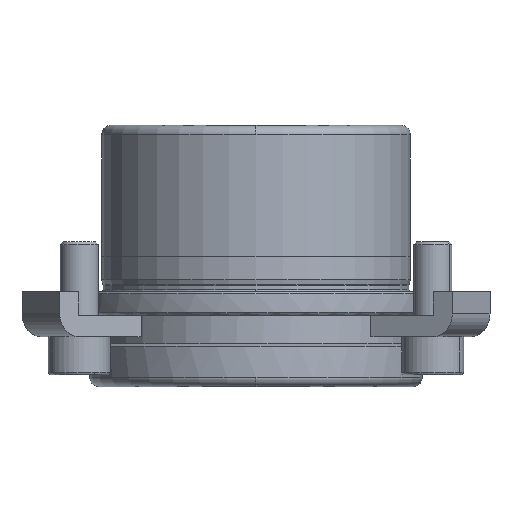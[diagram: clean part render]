
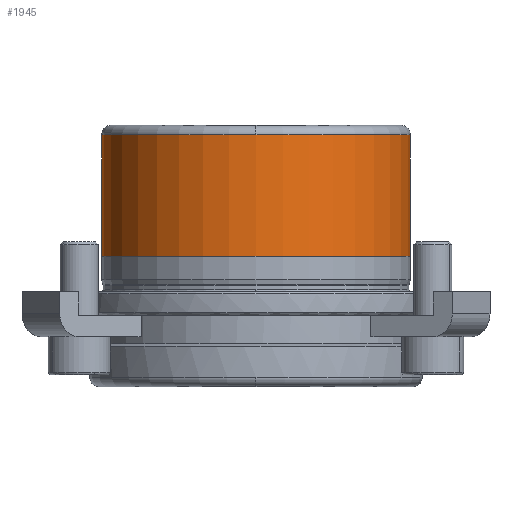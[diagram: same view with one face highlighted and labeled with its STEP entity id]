
A CAD part, front view. The second image highlights one B-rep face of the part: STEP entity #1945.
In plain terms, the highlighted cylindrical face has radius 32.495 mm (diameter 64.99 mm), a partial arc.
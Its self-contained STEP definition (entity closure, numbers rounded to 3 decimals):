
#1102=CARTESIAN_POINT('',(32.495,0.,7.4));
#1103=VERTEX_POINT('',#1102);
#1104=CARTESIAN_POINT('',(32.495,0.,33.0));
#1105=VERTEX_POINT('',#1104);
#1106=CARTESIAN_POINT('',(32.495,0.,7.4));
#1107=DIRECTION('',(0.0,0.0,1.0));
#1108=VECTOR('',#1107,25.6);
#1109=LINE('',#1106,#1108);
#1110=EDGE_CURVE('',#1103,#1105,#1109,.T.);
#1112=CARTESIAN_POINT('',(-32.495,0.,7.4));
#1113=VERTEX_POINT('',#1112);
#1121=CARTESIAN_POINT('',(-32.495,0.,33.0));
#1122=VERTEX_POINT('',#1121);
#1123=CARTESIAN_POINT('',(-32.495,0.,7.4));
#1124=DIRECTION('',(0.0,0.0,1.0));
#1125=VECTOR('',#1124,25.6);
#1126=LINE('',#1123,#1125);
#1127=EDGE_CURVE('',#1113,#1122,#1126,.T.);
#1163=CARTESIAN_POINT('',(0.,-32.495,33.));
#1164=VERTEX_POINT('',#1163);
#1165=CARTESIAN_POINT('',(0.0,0.,33.0));
#1166=DIRECTION('',(0.0,0.0,-1.0));
#1167=DIRECTION('',(1.0,0.0,0.0));
#1168=AXIS2_PLACEMENT_3D('',#1165,#1166,#1167);
#1169=CIRCLE('',#1168,32.495);
#1170=EDGE_CURVE('',#1164,#1122,#1169,.T.);
#1916=CARTESIAN_POINT('',(0.0,0.,33.0));
#1917=DIRECTION('',(0.0,0.0,-1.0));
#1918=DIRECTION('',(1.0,0.0,0.0));
#1919=AXIS2_PLACEMENT_3D('',#1916,#1917,#1918);
#1920=CIRCLE('',#1919,32.495);
#1921=EDGE_CURVE('',#1105,#1164,#1920,.T.);
#1927=CARTESIAN_POINT('',(0.0,0.,20.2));
#1928=DIRECTION('',(0.0,0.,-1.0));
#1929=DIRECTION('',(1.0,0.0,0.0));
#1930=AXIS2_PLACEMENT_3D('',#1927,#1928,#1929);
#1931=CYLINDRICAL_SURFACE('',#1930,32.495);
#1932=ORIENTED_EDGE('',*,*,#1110,.T.);
#1933=ORIENTED_EDGE('',*,*,#1921,.T.);
#1934=ORIENTED_EDGE('',*,*,#1170,.T.);
#1935=ORIENTED_EDGE('',*,*,#1127,.F.);
#1936=CARTESIAN_POINT('',(0.0,0.,7.4));
#1937=DIRECTION('',(0.0,0.0,-1.0));
#1938=DIRECTION('',(1.0,0.0,0.0));
#1939=AXIS2_PLACEMENT_3D('',#1936,#1937,#1938);
#1940=CIRCLE('',#1939,32.495);
#1941=EDGE_CURVE('',#1103,#1113,#1940,.T.);
#1942=ORIENTED_EDGE('',*,*,#1941,.F.);
#1943=EDGE_LOOP('',(#1932,#1933,#1934,#1935,#1942));
#1944=FACE_OUTER_BOUND('',#1943,.T.);
#1945=ADVANCED_FACE('',(#1944),#1931,.T.);
